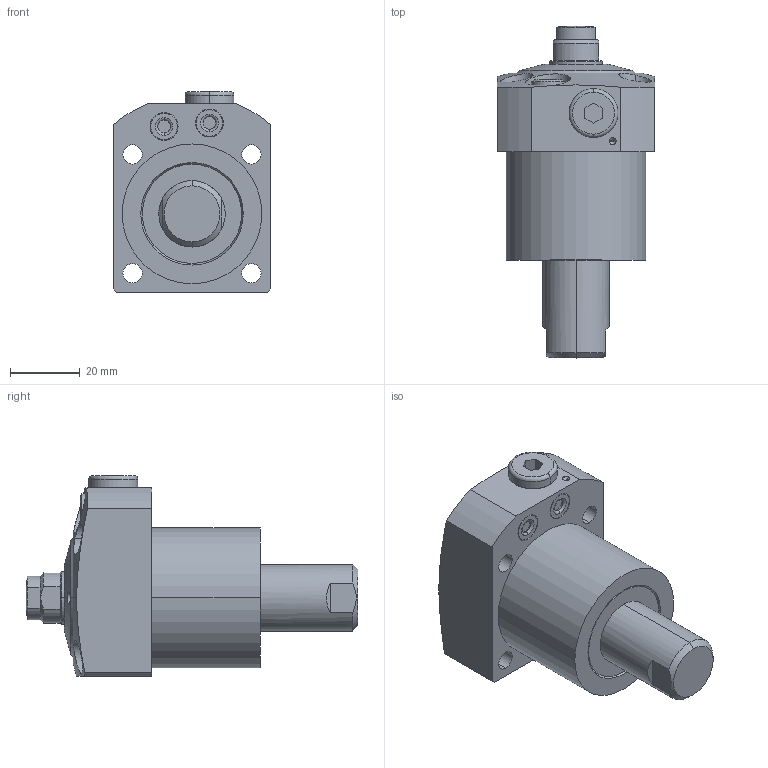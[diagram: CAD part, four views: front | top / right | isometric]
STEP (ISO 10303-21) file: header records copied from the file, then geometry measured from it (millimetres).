
FILE_DESCRIPTION(/* description */ (''),/* implementation_level */ '2;1');
FILE_NAME(/* name */ 'KFSC40-Q.stp',/* time_stamp */ '2023-01-10T13:06:25+08:00',/* author */ (''),/* organization */ (''),/* preprocessor_version */ 'ST-DEVELOPER v16.7',/* originating_system */ 'SIEMENS PLM Software NX 12.0',/* authorisation */ '');
FILE_SCHEMA (('AP203_CONFIGURATION_CONTROLLED_3D_DESIGN_OF_MECHANICAL_PARTS_AND_ASSEMBLIES_MIM_LF { 1 0 10303 403 2 1 2}'));
Length unit declared in the file: millimetre
Products named in the file (8): KFSC40-Q-5; KFSC40-Q-6; KFSC40-Q-1; KFSC40-Q-4; KFSC40-Q-3; KFSC40-Q-7; KFSC40-Q-2; LC0402-C-Q_step
Assembly tree (8 placements, depth 2):
  LC0402-C-Q_step
    KFSC40-Q-2
    KFSC40-Q-7  x2
    KFSC40-Q-3
    KFSC40-Q-4
    KFSC40-Q-1
    KFSC40-Q-6
    KFSC40-Q-5
Bounding box: 45 x 95 x 57.5 mm (x, y, z)
Volume: 96957.1 mm3; surface area: 21700 mm2
Topology: 8 solids, 8 shells, 218 faces, 481 edges, 298 vertices
Faces by surface type: cylinder 79, plane 67, cone 42, torus 28, sphere 2
Entity records: 6856 total; most frequent: CARTESIAN_POINT 1225, DIRECTION 1072, ORIENTED_EDGE 902, EDGE_CURVE 451, AXIS2_PLACEMENT_3D 445, VERTEX_POINT 284, EDGE_LOOP 243, CIRCLE 230
